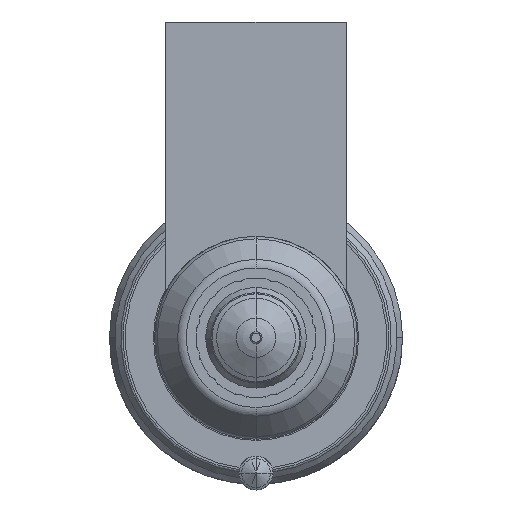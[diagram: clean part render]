
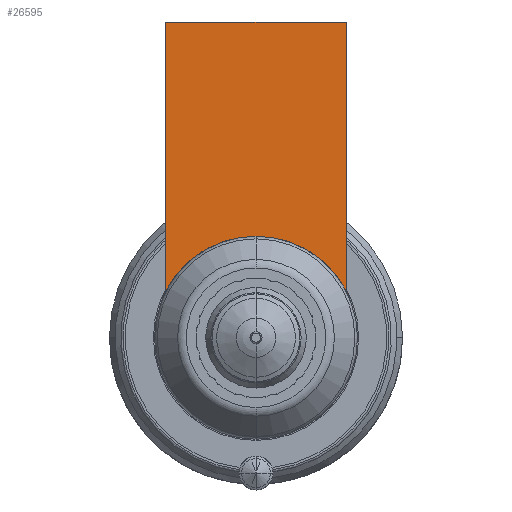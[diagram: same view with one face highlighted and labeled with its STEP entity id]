
A CAD part, front view. The second image highlights one B-rep face of the part: STEP entity #26595.
In plain terms, the highlighted planar face has unit normal (0, -1, 0).
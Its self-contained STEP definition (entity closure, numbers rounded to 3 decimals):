
#25714=DIRECTION('',(1.,0.,0.));
#25715=VECTOR('',#25714,16.);
#25716=CARTESIAN_POINT('',(-8.,-54.,28.));
#25717=LINE('',#25716,#25715);
#25722=CARTESIAN_POINT('',(0.,-54.,0.));
#25723=DIRECTION('',(0.,-1.,0.));
#25724=DIRECTION('',(0.889,0.,0.458));
#25725=AXIS2_PLACEMENT_3D('',#25722,#25723,#25724);
#25730=CARTESIAN_POINT('',(0.,-54.,0.));
#25731=DIRECTION('',(0.,-1.,0.));
#25732=DIRECTION('',(0.,0.,1.));
#25733=AXIS2_PLACEMENT_3D('',#25730,#25731,#25732);
#25759=DIRECTION('',(0.,0.,-1.));
#25760=VECTOR('',#25759,23.877);
#25761=CARTESIAN_POINT('',(-8.,-54.,28.));
#25762=LINE('',#25761,#25760);
#26439=DIRECTION('',(0.,0.,-1.));
#26440=VECTOR('',#26439,23.877);
#26441=CARTESIAN_POINT('',(8.,-54.,28.));
#26442=LINE('',#26441,#26440);
#26492=CARTESIAN_POINT('',(-8.,-54.,28.));
#26493=VERTEX_POINT('',#26492);
#26498=CARTESIAN_POINT('',(8.,-54.,28.));
#26499=VERTEX_POINT('',#26498);
#26502=CARTESIAN_POINT('',(-8.,-54.,4.123));
#26503=VERTEX_POINT('',#26502);
#26506=CARTESIAN_POINT('',(8.,-54.,4.123));
#26507=VERTEX_POINT('',#26506);
#26576=CARTESIAN_POINT('',(0.,-54.,9.));
#26577=VERTEX_POINT('',#26576);
#26578=CARTESIAN_POINT('',(0.,-54.,9.));
#26579=DIRECTION('',(0.,1.,0.));
#26580=DIRECTION('',(0.,0.,-1.));
#26581=AXIS2_PLACEMENT_3D('',#26578,#26579,#26580);
#26582=PLANE('',#26581);
#26584=ORIENTED_EDGE('',*,*,#26583,.F.);
#26586=ORIENTED_EDGE('',*,*,#26585,.T.);
#26588=ORIENTED_EDGE('',*,*,#26587,.T.);
#26590=ORIENTED_EDGE('',*,*,#26589,.T.);
#26592=ORIENTED_EDGE('',*,*,#26591,.T.);
#26593=EDGE_LOOP('',(#26584,#26586,#26588,#26590,#26592));
#26594=FACE_OUTER_BOUND('',#26593,.F.);
#26595=ADVANCED_FACE('',(#26594),#26582,.F.);
#25726=CIRCLE('',#25725,9.);
#25734=CIRCLE('',#25733,9.);
#26583=EDGE_CURVE('',#26493,#26503,#25762,.T.);
#26585=EDGE_CURVE('',#26493,#26499,#25717,.T.);
#26587=EDGE_CURVE('',#26499,#26507,#26442,.T.);
#26589=EDGE_CURVE('',#26507,#26577,#25726,.T.);
#26591=EDGE_CURVE('',#26577,#26503,#25734,.T.);
